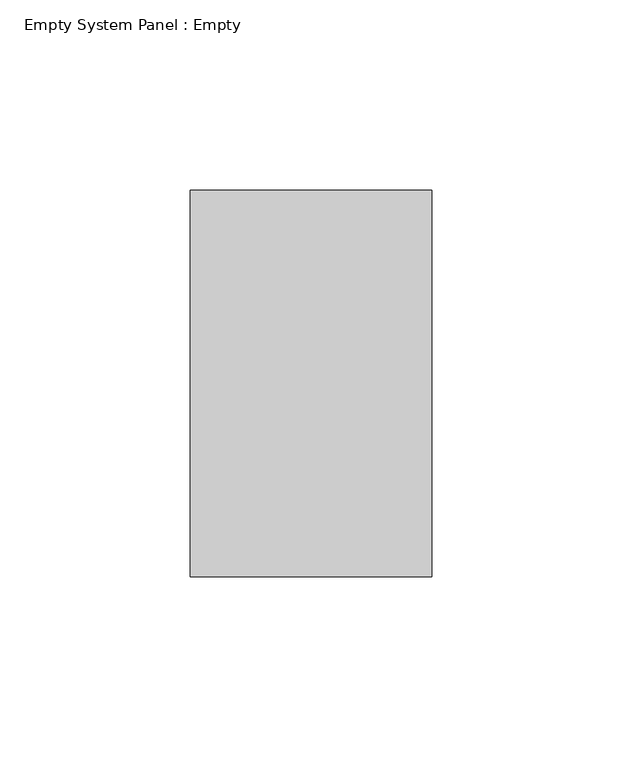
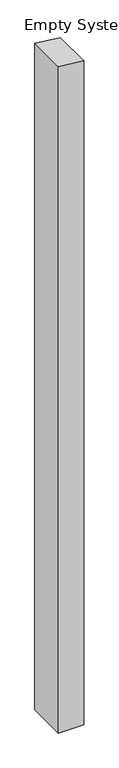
"""IFC4 building model written with IfcOpenShell, lengths in millimetres: plate geometry, Empty System Panel : Empty."""

from ifc_helpers import new_model, si_unit, frame, origin, place, context, project, spatial, polyline, outline, extrude, source, transform, mapped, element, save


def empty_system_panel_empty_7b22e16e(model_context):
    return source(origin(), model_context, "Body", "SweptSolid", [
        extrude(outline(polyline([(0.0, -31.75), (0.0, 31.75), (1754.1287789, 31.75), (1761.2311379, -31.75), (0.0, -31.75)])), frame((0.0, -50.8, 0.0), z_axis=(0.0, 1.0, 0.0), x_axis=(0.0, 0.0, 1.0)), (0.0, 0.0, 1.0), 101.6),
    ])


if __name__ == "__main__":
    model = new_model("IFC4")
    model_context = context("Model", 3, world=origin())
    ifc_project = project(units=[si_unit("LENGTHUNIT", "METRE", prefix="MILLI")], contexts=[model_context])
    site = spatial("IfcSite", under=ifc_project)
    building = spatial("IfcBuilding", under=site)
    placement = place(None, origin())
    empty_system_panel_empty_shape = empty_system_panel_empty_7b22e16e(model_context)
    element("IfcPlate", 1, ObjectType="Empty System Panel : Empty", at=placement, inside=building, context=model_context, shape_type="MappedRepresentation", body=[
        mapped(empty_system_panel_empty_shape, transform((0.0, 0.0, 0.0), x_axis=(1.0, 0.0, 0.0), y_axis=(0.0, 1.0, 0.0), z_axis=(0.0, 0.0, 1.0))),
    ])
    save(model, "model.ifc")
